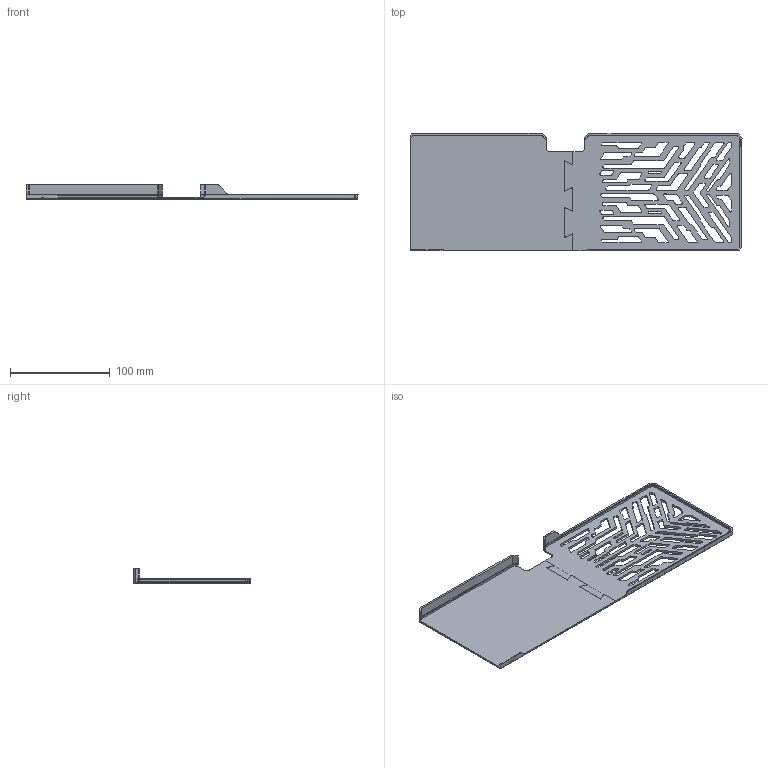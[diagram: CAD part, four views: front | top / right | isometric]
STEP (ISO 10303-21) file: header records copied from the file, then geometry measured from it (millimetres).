
FILE_DESCRIPTION((''),'2;1');
FILE_NAME('F332_MAKER_BACKPLATE_V2','2025-04-23T13:56:33',('Kate'),(''),'CREO PARAMETRIC BY PTC INC, 2021304','CREO PARAMETRIC BY PTC INC, 2021304','');
FILE_SCHEMA(('AUTOMOTIVE_DESIGN { 1 0 10303 214 1 1 1 1 }'));
Length unit declared in the file: millimetre
Products named in the file (1): F332_MAKER_BACKPLATE_V2
Bounding box: 332.2 x 117.2 x 14.9 mm (x, y, z)
Volume: 69890.2 mm3; surface area: 79361.7 mm2
Topology: 2 solids, 2 shells, 575 faces, 1672 edges, 1101 vertices
Faces by surface type: plane 276, cylinder 258, extrusion 19, revolution 10, torus 6, bspline 4, sphere 2
Entity records: 26294 total; most frequent: CARTESIAN_POINT 4899, ORIENTED_EDGE 3344, DIRECTION 3212, PRESENTATION_STYLE_ASSIGNMENT 1674, STYLED_ITEM 1674, CURVE_STYLE 1672, EDGE_CURVE 1672, VERTEX_POINT 1101
